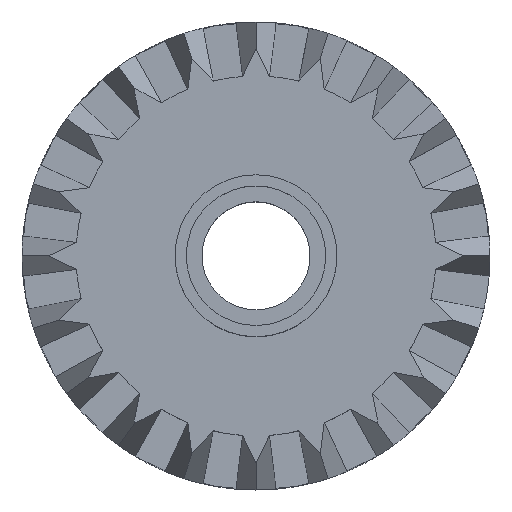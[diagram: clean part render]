
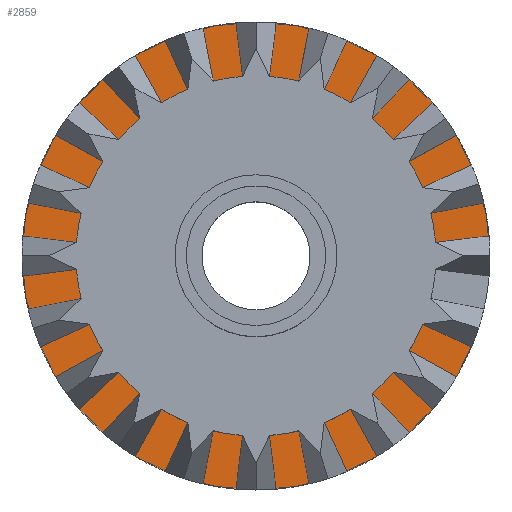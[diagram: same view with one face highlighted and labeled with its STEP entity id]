
A CAD part, top view. The second image highlights one B-rep face of the part: STEP entity #2859.
In plain terms, the highlighted planar face has unit normal (0, 0, -1).
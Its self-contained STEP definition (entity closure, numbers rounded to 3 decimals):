
#1149=ORIENTED_EDGE('',*,*,#1777,.F.);
#1150=ORIENTED_EDGE('',*,*,#1776,.T.);
#1776=EDGE_CURVE('',#2051,#2051,#2183,.T.);
#1777=EDGE_CURVE('',#2052,#2052,#2184,.T.);
#2051=VERTEX_POINT('',#5039);
#2052=VERTEX_POINT('',#5042);
#2183=CIRCLE('',#3250,8.);
#2184=CIRCLE('',#3252,10.4);
#2321=EDGE_LOOP('',(#1149));
#2322=EDGE_LOOP('',(#1150));
#2529=FACE_BOUND('',#2321,.T.);
#2530=FACE_BOUND('',#2322,.T.);
#2670=PLANE('',#3251);
#2859=ADVANCED_FACE('',(#2529,#2530),#2670,.F.);
#3250=AXIS2_PLACEMENT_3D('',#5038,#4126,#4127);
#3251=AXIS2_PLACEMENT_3D('',#5040,#4128,#4129);
#3252=AXIS2_PLACEMENT_3D('',#5041,#4130,#4131);
#4126=DIRECTION('',(0.,0.,1.));
#4127=DIRECTION('',(1.,0.,0.));
#4128=DIRECTION('',(0.,0.,1.));
#4129=DIRECTION('',(1.,0.,0.));
#4130=DIRECTION('',(0.,0.,1.));
#4131=DIRECTION('',(1.,0.,0.));
#5038=CARTESIAN_POINT('',(0.,0.,-0.6));
#5039=CARTESIAN_POINT('',(8.,0.,-0.6));
#5040=CARTESIAN_POINT('',(0.,10.4,-0.6));
#5041=CARTESIAN_POINT('',(0.,0.,-0.6));
#5042=CARTESIAN_POINT('',(10.4,0.,-0.6));
